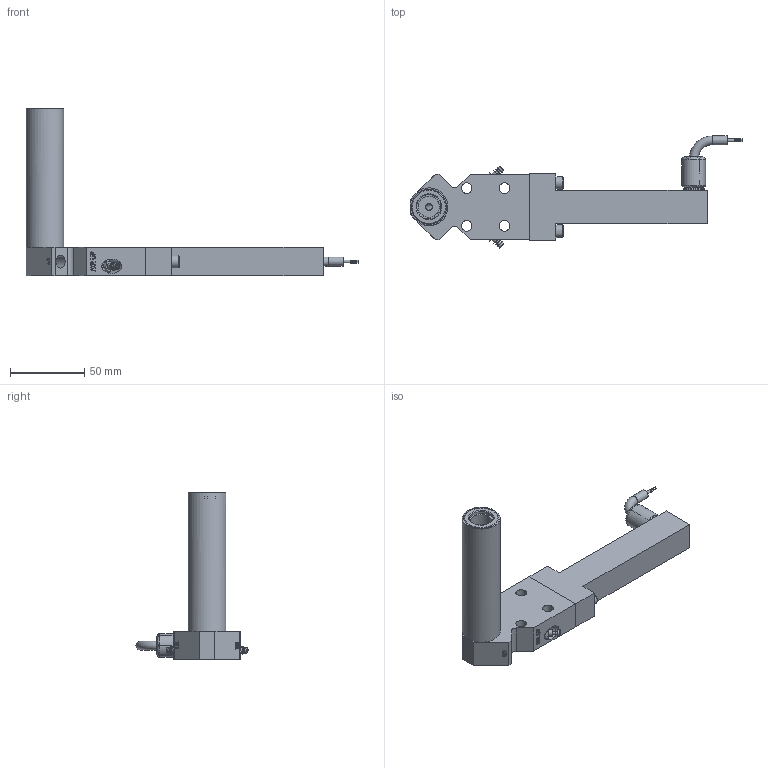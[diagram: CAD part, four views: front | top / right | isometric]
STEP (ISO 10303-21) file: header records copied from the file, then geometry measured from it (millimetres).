
FILE_DESCRIPTION(/* description */ ('ASSY,BODY,VF,LVDT,SXZR2,NHP,RIGHT EXIT'),/* implementation_level */ '2;1');
FILE_NAME(/* name */ 'X:\ASSY,BODY,VF,LVDT,SXZR2,NHP,RIGHT EXIT_0001468895.stp',/* time_stamp */ '2021-04-13T13:06:58-04:00',/* author */ ('Simon.Britton'),/* organization */ (''),/* preprocessor_version */ 'ST-DEVELOPER v17',/* originating_system */ 'Autodesk Inventor 2019',/* authorisation */ '');
FILE_SCHEMA (('AUTOMOTIVE_DESIGN { 1 0 10303 214 3 1 1 }'));
Length unit declared in the file: millimetre
Products named in the file (1): ASSY,VF,LVDT,SXZR,2,TM,S,NHP,N
Bounding box: 223.16 x 75.31 x 112.6 mm (x, y, z)
Volume: 126329.1 mm3; surface area: 66304.5 mm2
Topology: 2 solids, 8 shells, 571 faces, 1469 edges, 973 vertices
Faces by surface type: plane 350, cylinder 98, cone 52, bspline 50, torus 13, sphere 8
Full cylindrical faces by diameter (mm): 0.5 x4, 2 x1, 2.381 x4, 3.175 x1, 3.969 x2, 4 x3, 4.064 x2, 4.216 x4, 4.318 x2, 4.763 x3, 6 x2, 6.35 x2, 7.112 x3, 7.144 x4, 7.798 x1, 8 x1, 8.5 x2, 8.731 x2, 9.525 x2, 10 x1, 12.7 x1, 13.716 x1, 14 x2, 14.287 x1, 14.351 x1, 15.206 x1, 15.24 x2, 16 x1, 16.272 x1, 20.777 x4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
Entity records: 19135 total; most frequent: CARTESIAN_POINT 4704, ORIENTED_EDGE 2924, DIRECTION 2717, EDGE_CURVE 1462, VERTEX_POINT 971, AXIS2_PLACEMENT_3D 941, LINE 835, VECTOR 835
